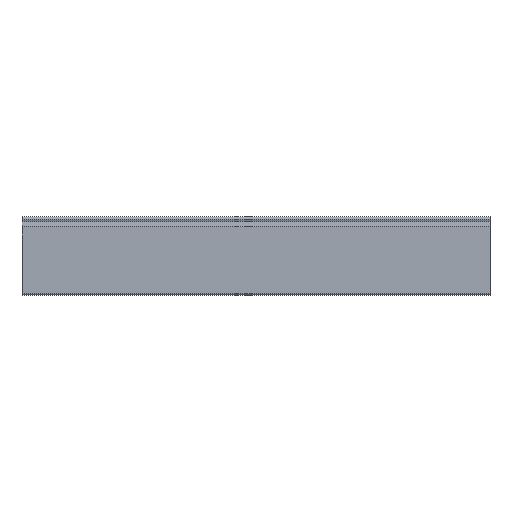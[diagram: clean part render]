
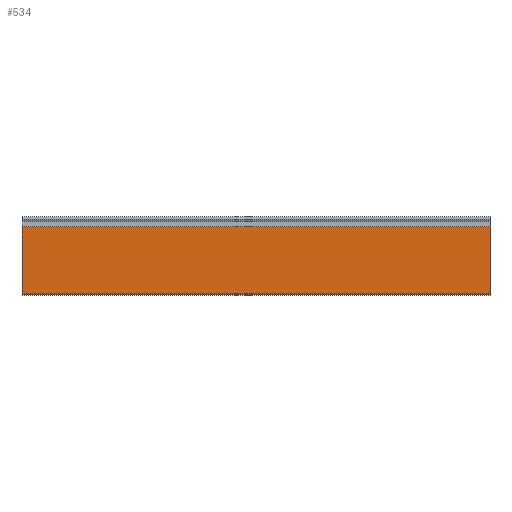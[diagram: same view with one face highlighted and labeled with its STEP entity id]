
A CAD part, top view. The second image highlights one B-rep face of the part: STEP entity #534.
In plain terms, the highlighted planar face has unit normal (0, 0, 1).
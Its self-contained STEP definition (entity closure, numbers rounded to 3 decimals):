
#39 = VERTEX_POINT ( 'NONE', #109 ) ;
#41 = VERTEX_POINT ( 'NONE', #111 ) ;
#58 = VERTEX_POINT ( 'NONE', #128 ) ;
#63 = VERTEX_POINT ( 'NONE', #133 ) ;
#109 = CARTESIAN_POINT ( 'NONE',  ( -383., -12.164, 4.05 ) ) ;
#111 = CARTESIAN_POINT ( 'NONE',  ( 383., -121.663, 4.05 ) ) ;
#128 = CARTESIAN_POINT ( 'NONE',  ( 383., -12.164, 4.05 ) ) ;
#133 = CARTESIAN_POINT ( 'NONE',  ( -383., -121.663, 4.05 ) ) ;
#189 = EDGE_CURVE ( 'NONE', #58, #41, #947, .T. ) ;
#237 = CARTESIAN_POINT ( 'NONE',  ( -383., -12.164, 4.05 ) ) ;
#246 = DIRECTION ( 'NONE',  ( 0., -1., 0. ) ) ;
#270 = CARTESIAN_POINT ( 'NONE',  ( 383., -12.164, 4.05 ) ) ;
#271 = DIRECTION ( 'NONE',  ( -1., 0., 0. ) ) ;
#272 = CARTESIAN_POINT ( 'NONE',  ( 383., -121.663, 4.05 ) ) ;
#273 = DIRECTION ( 'NONE',  ( -1., 0., 0. ) ) ;
#358 = FACE_OUTER_BOUND ( 'NONE', #729, .T. ) ;
#428 = VECTOR ( 'NONE', #246, 1000. ) ;
#431 = LINE ( 'NONE', #237, #428 ) ;
#453 = LINE ( 'NONE', #270, #454 ) ;
#454 = VECTOR ( 'NONE', #271, 1000. ) ;
#455 = LINE ( 'NONE', #272, #456 ) ;
#456 = VECTOR ( 'NONE', #273, 1000. ) ;
#534 = ADVANCED_FACE ( 'NONE', ( #358 ), #1204, .F. ) ;
#582 = EDGE_CURVE ( 'NONE', #39, #63, #431, .T. ) ;
#594 = EDGE_CURVE ( 'NONE', #58, #39, #453, .T. ) ;
#595 = EDGE_CURVE ( 'NONE', #41, #63, #455, .T. ) ;
#675 = AXIS2_PLACEMENT_3D ( 'NONE', #1207, #1216, #1217 ) ;
#729 = EDGE_LOOP ( 'NONE', ( #871, #870, #869, #868 ) ) ;
#868 = ORIENTED_EDGE ( 'NONE', *, *, #594, .T. ) ;
#869 = ORIENTED_EDGE ( 'NONE', *, *, #189, .F. ) ;
#870 = ORIENTED_EDGE ( 'NONE', *, *, #595, .F. ) ;
#871 = ORIENTED_EDGE ( 'NONE', *, *, #582, .T. ) ;
#947 = LINE ( 'NONE', #1062, #948 ) ;
#948 = VECTOR ( 'NONE', #1063, 1000. ) ;
#1062 = CARTESIAN_POINT ( 'NONE',  ( 383., -12.164, 4.05 ) ) ;
#1063 = DIRECTION ( 'NONE',  ( 0., -1., 0. ) ) ;
#1204 = PLANE ( 'NONE',  #675 ) ;
#1207 = CARTESIAN_POINT ( 'NONE',  ( 383., -12.164, 4.05 ) ) ;
#1216 = DIRECTION ( 'NONE',  ( 0., 0., -1. ) ) ;
#1217 = DIRECTION ( 'NONE',  ( 0., 1., 0. ) ) ;
